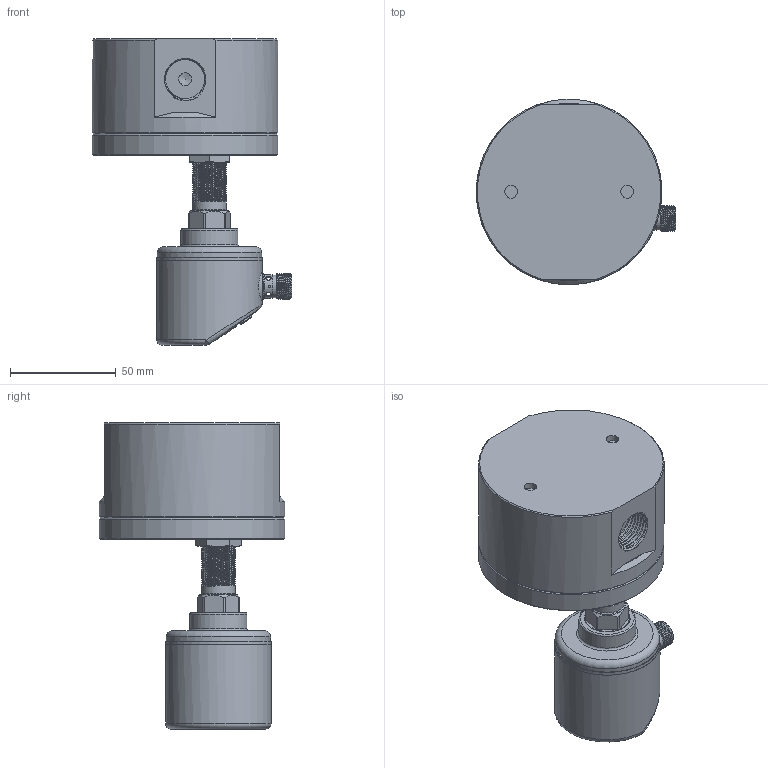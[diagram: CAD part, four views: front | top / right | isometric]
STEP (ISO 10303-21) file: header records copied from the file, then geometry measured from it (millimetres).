
FILE_DESCRIPTION (( 'STEP AP214' ), '1' );
FILE_NAME ('喘謫霜講數-M6.STEP', '2024-08-21T03:20:12', ( '' ), ( '' ), 'SwSTEP 2.0', 'SolidWorks 2020', '' );
FILE_SCHEMA (( 'AUTOMOTIVE_DESIGN' ));
Length unit declared in the file: millimetre
Products named in the file (13): 偌瑩簽; 滅阨諉芛褲极1; 喘謫霜講數-M6; 恦謫抻芛5; PVC躇猾菜; M16蹟譫; M6蹟佪; 翋极; 揤薯珆尨欶; 揤薯奻裔; 1; 2; 抻芛俋蹟恇G1-4
Assembly tree (21 placements, depth 3):
  喘謫霜講數-M6
    1
    2
    M6蹟佪  x8
    翋极
      揤薯奻裔
      揤薯珆尨欶
      滅阨諉芛褲极1
      偌瑩簽  x3
      PVC躇猾菜
      抻芛俋蹟恇G1-4
      恦謫抻芛5
    M16蹟譫
Bounding box: 94.53 x 88 x 145 mm (x, y, z)
Volume: 349183.2 mm3; surface area: 83461.5 mm2
Topology: 20 solids, 20 shells, 2537 faces, 7175 edges, 4751 vertices
Faces by surface type: plane 1730, cylinder 673, cone 97, bspline 21, torus 12, sphere 4
Full cylindrical faces by diameter (mm): 1 x4, 1.2 x3, 1.8 x1, 2 x5, 2.5 x7, 2.8 x1, 4.3 x3, 4.5 x6, 4.915 x8, 6 x12, 7 x15, 7.2 x1, 8.5 x1, 9.75 x1, 10.5 x9, 10.7 x1, 10.8 x1, 10.9 x1, 11 x2, 12 x1, 14 x1, 14.3 x1, 14.4 x1, 14.8 x1, 16 x29, 17.34 x2, 17.4 x1, 21.24 x1, 21.3 x1, 24 x1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
Entity records: 32988 total; most frequent: CARTESIAN_POINT 17422, DIRECTION 2973, ORIENTED_EDGE 2972, EDGE_CURVE 1486, AXIS2_PLACEMENT_3D 1124, VERTEX_POINT 1047, EDGE_LOOP 889, FACE_OUTER_BOUND 732
